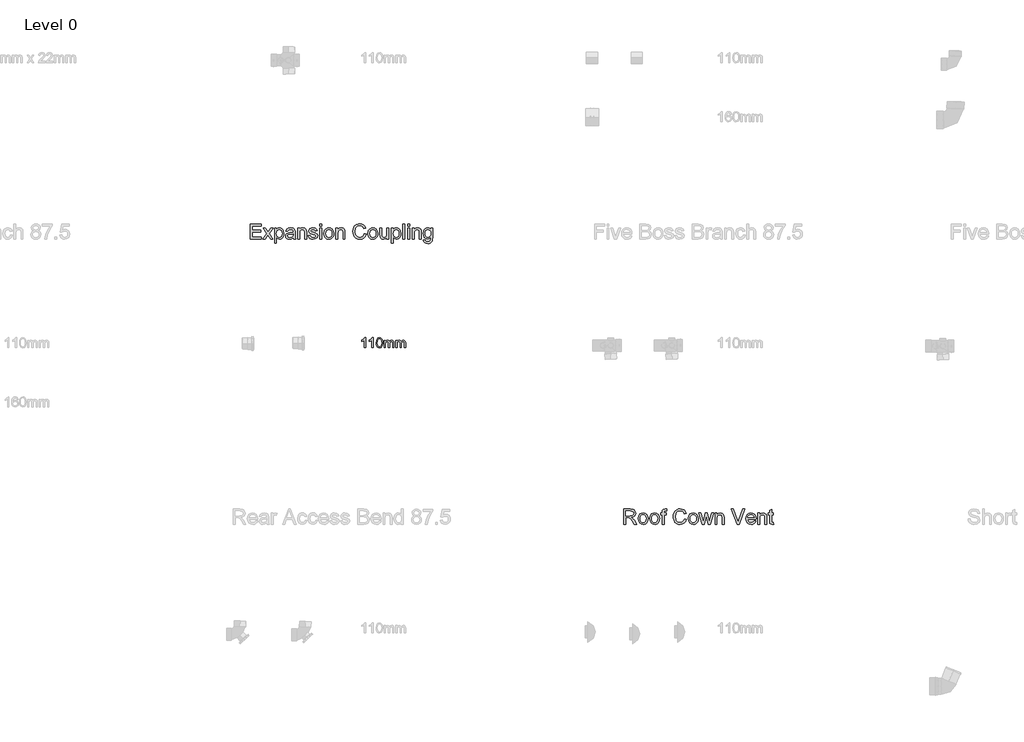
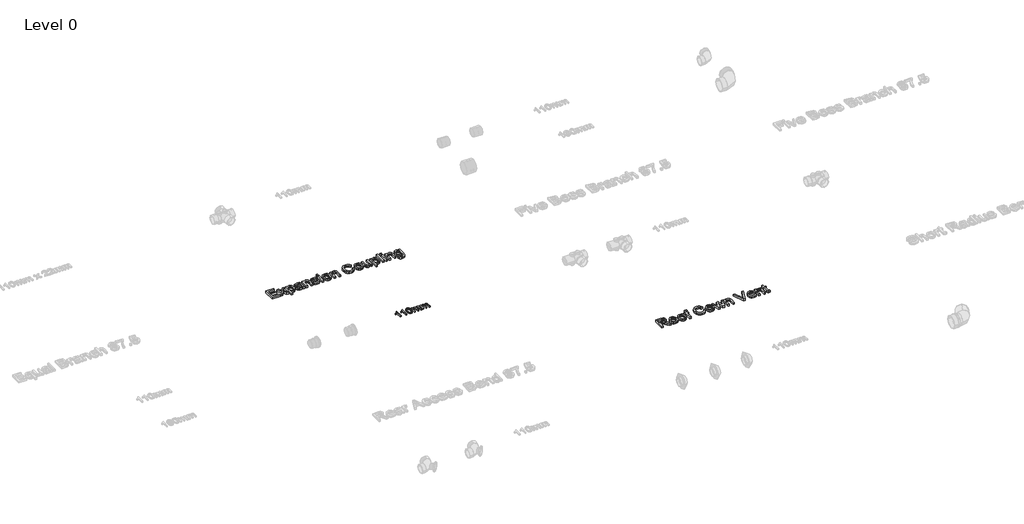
# One storey, part 21 of 28: 3 proxies.
"""IFC4 building model written with IfcOpenShell, lengths in millimetres."""

from ifc_helpers import new_model, si_unit, origin, origin_with_axes, place, context, project, spatial, polyline, outline, extrude, element, save

model = new_model("IFC4")

# Units and contexts
model_context = context("Model", 3, world=origin())
ifc_project = project(units=[si_unit("LENGTHUNIT", "METRE", prefix="MILLI")], contexts=[model_context])

# Site, building, storey
site = spatial("IfcSite", under=ifc_project)
building = spatial("IfcBuilding", under=site)
storey = spatial("IfcBuildingStorey", under=building, Name="Level 0", Elevation=0.0)

# Proxies
placement = place(None, origin())
element("IfcBuildingElementProxy", 1, Name="100mm Arial", ObjectType="100mm Arial", at=placement, inside=storey, context=model_context, shape_type="SweptSolid", body=[
    extrude(outline(polyline([(-3291.7293188, 2637.7167304), (-3304.0370111, 2637.7167304), (-3304.0370111, 2714.4474996), (-3315.6956649, 2706.1422111), (-3328.6523957, 2699.9282688), (-3328.6523957, 2711.5628842), (-3310.6115303, 2723.0773073), (-3299.6620111, 2736.1782688), (-3291.7293188, 2736.1782688), (-3291.7293188, 2637.7167304)])), origin_with_axes(), (0.0, 0.0, 1.0), 15.0),
    extrude(outline(polyline([(-3216.3447034, 2637.7167304), (-3228.6523957, 2637.7167304), (-3228.6523957, 2714.4474996), (-3240.3110495, 2706.1422111), (-3253.2677803, 2699.9282688), (-3253.2677803, 2711.5628842), (-3235.2269149, 2723.0773073), (-3224.2773957, 2736.1782688), (-3216.3447034, 2736.1782688), (-3216.3447034, 2637.7167304)])), origin_with_axes(), (0.0, 0.0, 1.0), 15.0),
    extrude(outline(polyline([(-3187.1139341, 2686.1542304), (-3183.4961457, 2714.4835573), (-3172.7509534, 2730.8176919), (-3154.8062418, 2736.1782688), (-3140.4312418, 2733.0051919), (-3130.5033572, 2723.8585573), (-3124.7341264, 2709.2912496), (-3122.4985495, 2686.1542304), (-3126.0802803, 2657.9450958), (-3136.7894149, 2641.5749035), (-3154.8062418, 2636.1782688), (-3167.5947034, 2638.5220188), (-3177.3062418, 2645.5532688), (-3184.6620111, 2662.2059131), (-3187.1139341, 2686.1542304)]), holes=[polyline([(-3174.8062418, 2686.1782688), (-3173.3639341, 2666.8182929), (-3169.0370111, 2655.613365), (-3162.5947034, 2650.2678121), (-3154.8062418, 2648.4859611), (-3147.0177803, 2650.2738217), (-3140.5754726, 2655.6374035), (-3136.2485495, 2666.848341), (-3134.8062418, 2686.1782688), (-3136.2004726, 2705.1025477), (-3140.3831649, 2716.394615), (-3146.8134534, 2722.0015861), (-3154.9504726, 2723.8705765), (-3162.6547995, 2722.2239419), (-3168.8447034, 2717.2840381), (-3173.3158572, 2705.2888458), (-3174.8062418, 2686.1782688)])]), origin_with_axes(), (0.0, 0.0, 1.0), 15.0),
    extrude(outline(polyline([(-3108.6523957, 2637.7167304), (-3108.6523957, 2710.0244227), (-3096.3447034, 2710.0244227), (-3096.3447034, 2698.1253842), (-3087.8831649, 2707.8729804), (-3075.8398957, 2711.5628842), (-3063.5081649, 2707.800865), (-3056.7293188, 2697.2599996), (-3047.1259534, 2707.9871631), (-3034.9985495, 2711.5628842), (-3025.7467466, 2710.0755044), (-3018.9047995, 2705.613365), (-3014.6770351, 2698.0562736), (-3013.2677803, 2687.2840381), (-3013.2677803, 2637.7167304), (-3025.5754726, 2637.7167304), (-3025.5754726, 2681.9955765), (-3026.7172995, 2692.2720188), (-3030.8519149, 2697.332115), (-3037.8831649, 2699.2551919), (-3049.9865303, 2694.3273073), (-3054.8062418, 2678.5340381), (-3054.8062418, 2637.7167304), (-3067.1139341, 2637.7167304), (-3067.1139341, 2683.3657688), (-3069.9624918, 2695.2888458), (-3079.3014341, 2699.2551919), (-3088.4120111, 2696.6109611), (-3094.4697034, 2688.8705765), (-3096.3447034, 2674.1830765), (-3096.3447034, 2637.7167304), (-3108.6523957, 2637.7167304)])), origin_with_axes(), (0.0, 0.0, 1.0), 15.0),
    extrude(outline(polyline([(-2994.8062418, 2637.7167304), (-2994.8062418, 2710.0244227), (-2982.4985495, 2710.0244227), (-2982.4985495, 2698.1253842), (-2974.0370111, 2707.8729804), (-2961.9937418, 2711.5628842), (-2949.6620111, 2707.800865), (-2942.8831649, 2697.2599996), (-2933.2797995, 2707.9871631), (-2921.1523957, 2711.5628842), (-2911.9005928, 2710.0755044), (-2905.0586457, 2705.613365), (-2900.8308813, 2698.0562736), (-2899.4216264, 2687.2840381), (-2899.4216264, 2637.7167304), (-2911.7293188, 2637.7167304), (-2911.7293188, 2681.9955765), (-2912.8711457, 2692.2720188), (-2917.0057611, 2697.332115), (-2924.0370111, 2699.2551919), (-2936.1403764, 2694.3273073), (-2940.960088, 2678.5340381), (-2940.960088, 2637.7167304), (-2953.2677803, 2637.7167304), (-2953.2677803, 2683.3657688), (-2956.116338, 2695.2888458), (-2965.4552803, 2699.2551919), (-2974.5658572, 2696.6109611), (-2980.6235495, 2688.8705765), (-2982.4985495, 2674.1830765), (-2982.4985495, 2637.7167304), (-2994.8062418, 2637.7167304)])), origin_with_axes(), (0.0, 0.0, 1.0), 15.0),
])
element("IfcBuildingElementProxy", 2, Name="150mm Arial", ObjectType="150mm Arial", at=placement, inside=storey, context=model_context, shape_type="SweptSolid", body=[
    extrude(outline(polyline([(-4422.1433743, 3705.2145219), (-4422.1433743, 3852.9068296), (-4315.9895281, 3852.9068296), (-4315.9895281, 3834.4452911), (-4403.6818358, 3834.4452911), (-4403.6818358, 3790.5991373), (-4320.6049127, 3790.5991373), (-4320.6049127, 3772.1375988), (-4403.6818358, 3772.1375988), (-4403.6818358, 3723.6760604), (-4313.6818358, 3723.6760604), (-4313.6818358, 3705.2145219), (-4422.1433743, 3705.2145219)])), origin_with_axes(), (0.0, 0.0, 1.0), 25.0),
    extrude(outline(polyline([(-4299.835682, 3705.2145219), (-4260.3885666, 3759.7337527), (-4297.5279897, 3813.6760604), (-4275.3164512, 3813.6760604), (-4257.3957781, 3787.7145219), (-4249.0303935, 3775.4549065), (-4241.7827973, 3785.478945), (-4221.3741435, 3813.6760604), (-4199.162605, 3813.6760604), (-4238.1770281, 3759.7337527), (-4200.6049127, 3705.2145219), (-4222.8164512, 3705.2145219), (-4245.4246243, 3737.9909642), (-4249.5712589, 3743.9765411), (-4277.6241435, 3705.2145219), (-4299.835682, 3705.2145219)])), origin_with_axes(), (0.0, 0.0, 1.0), 25.0),
    extrude(outline(polyline([(-4184.4510666, 3663.6760604), (-4184.4510666, 3813.6760604), (-4165.9895281, 3813.6760604), (-4165.9895281, 3795.5750988), (-4153.225105, 3810.8815892), (-4135.9895281, 3815.9837527), (-4123.5045522, 3814.1988969), (-4112.5880858, 3808.8443296), (-4103.6998647, 3800.24457), (-4097.2996243, 3788.7241373), (-4092.1433743, 3760.2746181), (-4093.5992036, 3744.4858561), (-4097.9666916, 3730.3647623), (-4105.1061147, 3718.6279835), (-4114.8777493, 3709.9921661), (-4126.2584584, 3704.6781637), (-4138.225105, 3702.9068296), (-4154.288807, 3707.6484161), (-4165.9895281, 3719.6375988), (-4165.9895281, 3663.6760604), (-4184.4510666, 3663.6760604)]), holes=[polyline([(-4165.9895281, 3758.5799065), (-4163.9928334, 3742.0294258), (-4158.0027493, 3730.4549065), (-4149.1641074, 3723.6400027), (-4138.6217397, 3721.3683681), (-4127.9080978, 3723.7211325), (-4118.8440954, 3730.7794258), (-4112.6647084, 3742.7776229), (-4110.6049127, 3759.9500988), (-4112.6151291, 3776.4104354), (-4118.6457781, 3788.1472142), (-4127.4708983, 3795.1784642), (-4137.8645281, 3797.5222142), (-4148.2987228, 3795.0297262), (-4157.4618839, 3787.5522623), (-4163.8576171, 3775.3241974), (-4165.9895281, 3758.5799065)])]), origin_with_axes(), (0.0, 0.0, 1.0), 25.0),
    extrude(outline(polyline([(-4002.1433743, 3719.0606758), (-4020.0460185, 3706.5486565), (-4039.8236627, 3702.9068296), (-4055.2518478, 3705.0973344), (-4066.632557, 3711.6688488), (-4073.6502853, 3721.6478152), (-4075.9895281, 3734.0606758), (-4072.4558743, 3748.6640411), (-4063.1710185, 3759.2650027), (-4050.2443358, 3765.322695), (-4034.2707781, 3768.0991373), (-4002.2515473, 3774.4452911), (-4002.1433743, 3778.5558681), (-4003.4144079, 3786.7950508), (-4007.2275089, 3792.1856758), (-4015.7551531, 3796.1880796), (-4027.6361627, 3797.5222142), (-4046.3140473, 3793.9705315), (-4055.2202973, 3781.3683681), (-4073.6818358, 3783.6760604), (-4065.695057, 3801.7049065), (-4049.6133262, 3812.2698104), (-4025.256355, 3815.9837527), (-4002.882557, 3812.7025027), (-3990.2443358, 3804.46332), (-3984.5832781, 3791.9332719), (-3983.6818358, 3775.7794258), (-3983.6818358, 3752.8106758), (-3982.7443358, 3720.7373585), (-3979.0664512, 3705.2145219), (-3997.5279897, 3705.2145219), (-4002.1433743, 3719.0606758)]), holes=[polyline([(-4002.1433743, 3755.9837527), (-4031.9270281, 3750.322695), (-4047.8104416, 3747.3299065), (-4055.0039512, 3742.4621181), (-4057.5279897, 3735.3587527), (-4052.0291916, 3725.3707719), (-4035.8933743, 3721.3683681), (-4017.2154897, 3725.7854354), (-4005.1722204, 3736.4765411), (-4002.2515473, 3750.7553873), (-4002.1433743, 3755.9837527)])]), origin_with_axes(), (0.0, 0.0, 1.0), 25.0),
    extrude(outline(polyline([(-3958.2972204, 3705.2145219), (-3958.2972204, 3813.6760604), (-3939.835682, 3813.6760604), (-3939.835682, 3798.5318296), (-3925.7190954, 3811.6207719), (-3906.4462589, 3815.9837527), (-3889.0123647, 3812.4681277), (-3877.1133262, 3803.2373585), (-3871.5784704, 3789.6616373), (-3870.6049127, 3771.8130796), (-3870.6049127, 3705.2145219), (-3889.0664512, 3705.2145219), (-3889.0664512, 3769.3250988), (-3891.193855, 3785.6592335), (-3898.7118839, 3794.2950508), (-3911.3861627, 3797.5222142), (-3922.1989632, 3795.7103152), (-3931.4162108, 3790.2746181), (-3937.7308142, 3779.7728152), (-3939.835682, 3762.7625988), (-3939.835682, 3705.2145219), (-3958.2972204, 3705.2145219)])), origin_with_axes(), (0.0, 0.0, 1.0), 25.0),
    extrude(outline(polyline([(-3852.1433743, 3737.5222142), (-3833.6818358, 3739.8299065), (-3830.7701772, 3731.9332719), (-3825.1361627, 3726.1279835), (-3805.5568358, 3721.3683681), (-3786.7347204, 3725.7313488), (-3780.6049127, 3735.9717335), (-3786.7707781, 3744.2650027), (-3805.773182, 3749.5294258), (-3833.5736627, 3758.5618777), (-3845.7070762, 3769.1087527), (-3849.835682, 3784.0005796), (-3846.5183743, 3797.7565892), (-3837.4678935, 3808.2674065), (-3825.7311147, 3813.7301469), (-3809.8477012, 3815.9837527), (-3787.3837589, 3812.3599546), (-3773.1049127, 3802.5522623), (-3766.7587589, 3785.9837527), (-3785.2202973, 3783.6760604), (-3792.1614031, 3793.8623585), (-3808.4053935, 3797.5222142), (-3826.0736627, 3794.0246181), (-3831.3741435, 3785.8755796), (-3829.1746243, 3780.5029835), (-3822.287605, 3776.4284642), (-3806.3861627, 3772.4981758), (-3779.288807, 3763.8082719), (-3766.7046723, 3753.9645219), (-3762.1433743, 3737.9188488), (-3767.4979416, 3720.2505796), (-3782.9486627, 3707.43207), (-3805.8092397, 3702.9068296), (-3824.4240233, 3705.08832), (-3838.0087589, 3711.6327911), (-3847.0772685, 3722.4681277), (-3852.1433743, 3737.5222142)])), origin_with_axes(), (0.0, 0.0, 1.0), 25.0),
    extrude(outline(polyline([(-3741.3741435, 3834.4452911), (-3741.3741435, 3852.9068296), (-3722.912605, 3852.9068296), (-3722.912605, 3834.4452911), (-3741.3741435, 3834.4452911)])), origin_with_axes(), (0.0, 0.0, 1.0), 25.0),
    extrude(outline(polyline([(-3741.3741435, 3705.2145219), (-3741.3741435, 3813.6760604), (-3722.912605, 3813.6760604), (-3722.912605, 3705.2145219), (-3741.3741435, 3705.2145219)])), origin_with_axes(), (0.0, 0.0, 1.0), 25.0),
    extrude(outline(polyline([(-3699.835682, 3759.4452911), (-3695.8422925, 3785.5961325), (-3683.8621243, 3803.9765411), (-3669.0604416, 3812.9819498), (-3651.3380858, 3815.9837527), (-3631.9435546, 3812.3284041), (-3616.4522685, 3801.3623585), (-3606.2975209, 3783.9510003), (-3602.912605, 3760.9597142), (-3604.4089993, 3742.3088729), (-3608.898182, 3728.1111565), (-3616.249444, 3717.4786445), (-3626.3320762, 3709.5234161), (-3638.3077372, 3704.5609762), (-3651.3380858, 3702.9068296), (-3670.9669921, 3706.5486565), (-3686.4402493, 3717.4741373), (-3696.4868238, 3735.2505796), (-3699.835682, 3759.4452911)]), holes=[polyline([(-3681.3741435, 3759.4813488), (-3679.2377252, 3742.7731157), (-3672.8284704, 3730.86957), (-3663.1830377, 3723.7436686), (-3651.3380858, 3721.3683681), (-3639.5472204, 3723.7571902), (-3629.9198166, 3730.9236565), (-3623.5105618, 3742.9849546), (-3621.3741435, 3760.0582719), (-3623.5240834, 3776.2797262), (-3629.9739031, 3788.0210123), (-3639.6148286, 3795.1469137), (-3651.3380858, 3797.5222142), (-3663.1830377, 3795.1559282), (-3672.8284704, 3788.05707), (-3679.2377252, 3776.1805676), (-3681.3741435, 3759.4813488)])]), origin_with_axes(), (0.0, 0.0, 1.0), 25.0),
    extrude(outline(polyline([(-3582.1433743, 3705.2145219), (-3582.1433743, 3813.6760604), (-3563.6818358, 3813.6760604), (-3563.6818358, 3798.5318296), (-3549.5652493, 3811.6207719), (-3530.2924127, 3815.9837527), (-3512.8585185, 3812.4681277), (-3500.95948, 3803.2373585), (-3495.4246243, 3789.6616373), (-3494.4510666, 3771.8130796), (-3494.4510666, 3705.2145219), (-3512.912605, 3705.2145219), (-3512.912605, 3769.3250988), (-3515.0400089, 3785.6592335), (-3522.5580377, 3794.2950508), (-3535.2323166, 3797.5222142), (-3546.0451171, 3795.7103152), (-3555.2623647, 3790.2746181), (-3561.576968, 3779.7728152), (-3563.6818358, 3762.7625988), (-3563.6818358, 3705.2145219), (-3582.1433743, 3705.2145219)])), origin_with_axes(), (0.0, 0.0, 1.0), 25.0),
    extrude(outline(polyline([(-3305.2202973, 3757.7145219), (-3286.7587589, 3752.9549065), (-3295.2773887, 3731.4419859), (-3308.6457781, 3715.7253392), (-3326.2058743, 3706.111457), (-3347.2996243, 3702.9068296), (-3368.7133863, 3705.3317094), (-3385.7190954, 3712.6063488), (-3398.7539512, 3724.478344), (-3408.2551531, 3740.6952911), (-3414.0559344, 3759.760796), (-3415.9895281, 3780.1784642), (-3413.8035305, 3801.713921), (-3407.2455377, 3820.3106758), (-3396.6580978, 3835.3782839), (-3382.3837589, 3846.3263008), (-3365.4546723, 3852.9924666), (-3346.9029897, 3855.2145219), (-3326.6611026, 3852.338921), (-3309.9258262, 3843.7121181), (-3297.2199969, 3829.8659642), (-3289.0664512, 3811.3323104), (-3307.5279897, 3806.9332719), (-3313.92823, 3820.3963128), (-3322.6722204, 3829.6315892), (-3333.8681339, 3834.9726349), (-3347.6241435, 3836.7529835), (-3363.4805137, 3834.7788248), (-3376.506355, 3828.8563488), (-3386.3906699, 3819.6075508), (-3392.8224608, 3807.6544258), (-3397.5279897, 3780.2145219), (-3391.9570762, 3748.4116373), (-3384.835682, 3736.5351349), (-3374.6133262, 3728.0931277), (-3362.358218, 3723.049558), (-3349.1385666, 3721.3683681), (-3333.7284103, 3723.6580315), (-3320.8873647, 3730.5270219), (-3311.1923526, 3741.9032238), (-3305.2202973, 3757.7145219)])), origin_with_axes(), (0.0, 0.0, 1.0), 25.0),
    extrude(outline(polyline([(-3268.2972204, 3759.4452911), (-3264.303831, 3785.5961325), (-3252.3236627, 3803.9765411), (-3237.52198, 3812.9819498), (-3219.7996243, 3815.9837527), (-3200.405093, 3812.3284041), (-3184.913807, 3801.3623585), (-3174.7590594, 3783.9510003), (-3171.3741435, 3760.9597142), (-3172.8705377, 3742.3088729), (-3177.3597204, 3728.1111565), (-3184.7109824, 3717.4786445), (-3194.7936147, 3709.5234161), (-3206.7692757, 3704.5609762), (-3219.7996243, 3702.9068296), (-3239.4285305, 3706.5486565), (-3254.9017877, 3717.4741373), (-3264.9483622, 3735.2505796), (-3268.2972204, 3759.4452911)]), holes=[polyline([(-3249.835682, 3759.4813488), (-3247.6992637, 3742.7731157), (-3241.2900089, 3730.86957), (-3231.6445762, 3723.7436686), (-3219.7996243, 3721.3683681), (-3208.0087589, 3723.7571902), (-3198.381355, 3730.9236565), (-3191.9721002, 3742.9849546), (-3189.835682, 3760.0582719), (-3191.9856219, 3776.2797262), (-3198.4354416, 3788.0210123), (-3208.0763671, 3795.1469137), (-3219.7996243, 3797.5222142), (-3231.6445762, 3795.1559282), (-3241.2900089, 3788.05707), (-3247.6992637, 3776.1805676), (-3249.835682, 3759.4813488)])]), origin_with_axes(), (0.0, 0.0, 1.0), 25.0),
    extrude(outline(polyline([(-3081.3741435, 3705.2145219), (-3081.3741435, 3723.8563488), (-3095.8332781, 3708.1442094), (-3114.6914512, 3702.9068296), (-3132.05323, 3706.5847142), (-3144.0243839, 3715.8154835), (-3149.523182, 3729.4092335), (-3150.6049127, 3746.572695), (-3150.6049127, 3813.6760604), (-3132.1433743, 3813.6760604), (-3132.1433743, 3755.2625988), (-3131.0255858, 3736.4404835), (-3123.7239031, 3725.3888008), (-3109.9678935, 3721.3683681), (-3094.55323, 3725.478945), (-3084.366932, 3736.6748585), (-3081.3741435, 3757.2457719), (-3081.3741435, 3813.6760604), (-3062.912605, 3813.6760604), (-3062.912605, 3705.2145219), (-3081.3741435, 3705.2145219)])), origin_with_axes(), (0.0, 0.0, 1.0), 25.0),
    extrude(outline(polyline([(-3037.5279897, 3663.6760604), (-3037.5279897, 3813.6760604), (-3019.0664512, 3813.6760604), (-3019.0664512, 3795.5750988), (-3006.3020281, 3810.8815892), (-2989.0664512, 3815.9837527), (-2976.5814752, 3814.1988969), (-2965.6650089, 3808.8443296), (-2956.7767877, 3800.24457), (-2950.3765473, 3788.7241373), (-2945.2202973, 3760.2746181), (-2946.6761267, 3744.4858561), (-2951.0436147, 3730.3647623), (-2958.1830377, 3718.6279835), (-2967.9546723, 3709.9921661), (-2979.3353815, 3704.6781637), (-2991.3020281, 3702.9068296), (-3007.36573, 3707.6484161), (-3019.0664512, 3719.6375988), (-3019.0664512, 3663.6760604), (-3037.5279897, 3663.6760604)]), holes=[polyline([(-3019.0664512, 3758.5799065), (-3017.0697565, 3742.0294258), (-3011.0796723, 3730.4549065), (-3002.2410305, 3723.6400027), (-2991.6986627, 3721.3683681), (-2980.9850209, 3723.7211325), (-2971.9210185, 3730.7794258), (-2965.7416315, 3742.7776229), (-2963.6818358, 3759.9500988), (-2965.6920522, 3776.4104354), (-2971.7227012, 3788.1472142), (-2980.5478214, 3795.1784642), (-2990.9414512, 3797.5222142), (-3001.3756459, 3795.0297262), (-3010.538807, 3787.5522623), (-3016.9345401, 3775.3241974), (-3019.0664512, 3758.5799065)])]), origin_with_axes(), (0.0, 0.0, 1.0), 25.0),
    extrude(outline(polyline([(-2924.4510666, 3705.2145219), (-2924.4510666, 3852.9068296), (-2905.9895281, 3852.9068296), (-2905.9895281, 3705.2145219), (-2924.4510666, 3705.2145219)])), origin_with_axes(), (0.0, 0.0, 1.0), 25.0),
    extrude(outline(polyline([(-2878.2972204, 3834.4452911), (-2878.2972204, 3852.9068296), (-2859.835682, 3852.9068296), (-2859.835682, 3834.4452911), (-2878.2972204, 3834.4452911)])), origin_with_axes(), (0.0, 0.0, 1.0), 25.0),
    extrude(outline(polyline([(-2878.2972204, 3705.2145219), (-2878.2972204, 3813.6760604), (-2859.835682, 3813.6760604), (-2859.835682, 3705.2145219), (-2878.2972204, 3705.2145219)])), origin_with_axes(), (0.0, 0.0, 1.0), 25.0),
    extrude(outline(polyline([(-2832.1433743, 3705.2145219), (-2832.1433743, 3813.6760604), (-2813.6818358, 3813.6760604), (-2813.6818358, 3798.5318296), (-2799.5652493, 3811.6207719), (-2780.2924127, 3815.9837527), (-2762.8585185, 3812.4681277), (-2750.95948, 3803.2373585), (-2745.4246243, 3789.6616373), (-2744.4510666, 3771.8130796), (-2744.4510666, 3705.2145219), (-2762.912605, 3705.2145219), (-2762.912605, 3769.3250988), (-2765.0400089, 3785.6592335), (-2772.5580377, 3794.2950508), (-2785.2323166, 3797.5222142), (-2796.0451171, 3795.7103152), (-2805.2623647, 3790.2746181), (-2811.576968, 3779.7728152), (-2813.6818358, 3762.7625988), (-2813.6818358, 3705.2145219), (-2832.1433743, 3705.2145219)])), origin_with_axes(), (0.0, 0.0, 1.0), 25.0),
    extrude(outline(polyline([(-2723.6818358, 3695.9837527), (-2705.2202973, 3693.6760604), (-2699.2347204, 3683.9404835), (-2681.3140473, 3679.8299065), (-2662.4198166, 3684.4813488), (-2653.4053935, 3697.5342335), (-2652.1433743, 3719.0606758), (-2665.1421723, 3708.6760604), (-2680.9895281, 3705.2145219), (-2700.0234824, 3709.243969), (-2714.2166916, 3721.3323104), (-2723.046319, 3739.0546661), (-2725.9895281, 3759.9861565), (-2720.7070762, 3788.5979354), (-2714.2437348, 3800.2130195), (-2705.4186147, 3808.8443296), (-2694.5336988, 3814.1988969), (-2681.8909704, 3815.9837527), (-2665.4216195, 3811.9452911), (-2652.1433743, 3799.8299065), (-2652.1433743, 3813.6760604), (-2633.6818358, 3813.6760604), (-2633.6818358, 3720.0342335), (-2634.943855, 3698.4131397), (-2638.7299127, 3684.1748585), (-2645.2518478, 3674.7322503), (-2654.7214993, 3667.4981758), (-2666.9315353, 3662.90082), (-2681.6746243, 3661.3683681), (-2698.8516074, 3663.5273224), (-2712.3777493, 3670.0041854), (-2721.0541315, 3680.8169859), (-2723.6818358, 3695.9837527)]), holes=[polyline([(-2707.5279897, 3761.2481758), (-2705.5583382, 3744.314582), (-2699.6493839, 3732.6724546), (-2690.7656699, 3725.9251589), (-2679.8717397, 3723.6760604), (-2669.0589392, 3725.9116373), (-2660.1301531, 3732.6183681), (-2654.140069, 3744.1117575), (-2652.1433743, 3760.7073104), (-2654.1986627, 3776.7124186), (-2660.3645281, 3788.2373585), (-2669.4240233, 3795.2010003), (-2680.1602012, 3797.5222142), (-2690.702569, 3795.237058), (-2699.5412108, 3788.3815892), (-2705.5312949, 3777.0279234), (-2707.5279897, 3761.2481758)])]), origin_with_axes(), (0.0, 0.0, 1.0), 25.0),
])
element("IfcBuildingElementProxy", 3, Name="150mm Arial", ObjectType="150mm Arial", at=placement, inside=storey, context=model_context, shape_type="SweptSolid", body=[
    extrude(outline(polyline([(-757.1433743, 905.2145219), (-757.1433743, 1052.9068296), (-693.5015473, 1052.9068296), (-663.9522685, 1048.9224546), (-654.8567156, 1043.4056277), (-647.7984223, 1034.8238969), (-643.2686747, 1024.1823705), (-641.7587589, 1012.4861565), (-644.2602613, 997.9368777), (-651.7647685, 985.8755796), (-664.4976411, 977.0324306), (-682.6842397, 972.1375988), (-672.1914512, 964.2409642), (-657.2275089, 945.2385604), (-632.600105, 905.2145219), (-654.054432, 905.2145219), (-673.273182, 935.8275027), (-687.1553935, 956.0919258), (-696.9089993, 965.6652431), (-705.6890473, 969.1808681), (-716.398182, 969.8299065), (-738.6818358, 969.8299065), (-738.6818358, 905.2145219), (-757.1433743, 905.2145219)]), holes=[polyline([(-738.6818358, 988.291445), (-697.3597204, 988.291445), (-676.2839993, 990.9056277), (-664.3128454, 999.2710123), (-660.2202973, 1011.8010604), (-662.1719199, 1020.806469), (-668.0267877, 1028.0630796), (-678.1004055, 1032.8497383), (-692.7082781, 1034.4452911), (-738.6818358, 1034.4452911), (-738.6818358, 988.291445)])]), origin_with_axes(), (0.0, 0.0, 1.0), 25.0),
    extrude(outline(polyline([(-616.3741435, 959.4452911), (-612.3807541, 985.5961325), (-600.4005858, 1003.9765411), (-585.5989031, 1012.9819498), (-567.8765473, 1015.9837527), (-548.4820161, 1012.3284041), (-532.99073, 1001.3623585), (-522.8359824, 983.9510003), (-519.4510666, 960.9597142), (-520.9474608, 942.3088729), (-525.4366435, 928.1111565), (-532.7879055, 917.4786445), (-542.8705377, 909.5234161), (-554.8461988, 904.5609762), (-567.8765473, 902.9068296), (-587.5054536, 906.5486565), (-602.9787108, 917.4741373), (-613.0252853, 935.2505796), (-616.3741435, 959.4452911)]), holes=[polyline([(-597.912605, 959.4813488), (-595.7761868, 942.7731157), (-589.366932, 930.86957), (-579.7214993, 923.7436686), (-567.8765473, 921.3683681), (-556.085682, 923.7571902), (-546.4582781, 930.9236565), (-540.0490233, 942.9849546), (-537.912605, 960.0582719), (-540.0625449, 976.2797262), (-546.5123647, 988.0210123), (-556.1532901, 995.1469137), (-567.8765473, 997.5222142), (-579.7214993, 995.1559282), (-589.366932, 988.05707), (-595.7761868, 976.1805676), (-597.912605, 959.4813488)])]), origin_with_axes(), (0.0, 0.0, 1.0), 25.0),
    extrude(outline(polyline([(-503.2972204, 959.4452911), (-499.303831, 985.5961325), (-487.3236627, 1003.9765411), (-472.52198, 1012.9819498), (-454.7996243, 1015.9837527), (-435.405093, 1012.3284041), (-419.913807, 1001.3623585), (-409.7590594, 983.9510003), (-406.3741435, 960.9597142), (-407.8705377, 942.3088729), (-412.3597204, 928.1111565), (-419.7109824, 917.4786445), (-429.7936147, 909.5234161), (-441.7692757, 904.5609762), (-454.7996243, 902.9068296), (-474.4285305, 906.5486565), (-489.9017877, 917.4741373), (-499.9483622, 935.2505796), (-503.2972204, 959.4452911)]), holes=[polyline([(-484.835682, 959.4813488), (-482.6992637, 942.7731157), (-476.2900089, 930.86957), (-466.6445762, 923.7436686), (-454.7996243, 921.3683681), (-443.0087589, 923.7571902), (-433.381355, 930.9236565), (-426.9721002, 942.9849546), (-424.835682, 960.0582719), (-426.9856219, 976.2797262), (-433.4354416, 988.0210123), (-443.0763671, 995.1469137), (-454.7996243, 997.5222142), (-466.6445762, 995.1559282), (-476.2900089, 988.05707), (-482.6992637, 976.1805676), (-484.835682, 959.4813488)])]), origin_with_axes(), (0.0, 0.0, 1.0), 25.0),
    extrude(outline(polyline([(-380.9895281, 905.2145219), (-380.9895281, 995.2145219), (-397.1433743, 995.2145219), (-397.1433743, 1013.6760604), (-380.9895281, 1013.6760604), (-380.9895281, 1024.6015411), (-379.0424127, 1039.9981758), (-369.5952973, 1050.9957719), (-350.9895281, 1055.2145219), (-334.1505858, 1053.1952911), (-336.8549127, 1035.8875988), (-347.491932, 1036.7529835), (-359.1205377, 1033.6880796), (-362.5279897, 1022.2577911), (-362.5279897, 1013.6760604), (-341.7587589, 1013.6760604), (-341.7587589, 995.2145219), (-362.5279897, 995.2145219), (-362.5279897, 905.2145219), (-380.9895281, 905.2145219)])), origin_with_axes(), (0.0, 0.0, 1.0), 25.0),
    extrude(outline(polyline([(-161.7587589, 957.7145219), (-143.2972204, 952.9549065), (-151.8158502, 931.4419859), (-165.1842397, 915.7253392), (-182.7443358, 906.111457), (-203.8380858, 902.9068296), (-225.2518478, 905.3317094), (-242.257557, 912.6063488), (-255.2924127, 924.478344), (-264.7936147, 940.6952911), (-270.5943959, 959.760796), (-272.5279897, 980.1784642), (-270.3419921, 1001.713921), (-263.7839993, 1020.3106758), (-253.1965594, 1035.3782839), (-238.9222204, 1046.3263008), (-221.9931339, 1052.9924666), (-203.4414512, 1055.2145219), (-183.1995642, 1052.338921), (-166.4642877, 1043.7121181), (-153.7584584, 1029.8659642), (-145.6049127, 1011.3323104), (-164.0664512, 1006.9332719), (-170.4666916, 1020.3963128), (-179.210682, 1029.6315892), (-190.4065954, 1034.9726349), (-204.162605, 1036.7529835), (-220.0189752, 1034.7788248), (-233.0448166, 1028.8563488), (-242.9291315, 1019.6075508), (-249.3609223, 1007.6544258), (-254.0664512, 980.2145219), (-248.4955377, 948.4116373), (-241.3741435, 936.5351349), (-231.1517877, 928.0931277), (-218.8966796, 923.049558), (-205.6770281, 921.3683681), (-190.2668719, 923.6580315), (-177.4258262, 930.5270219), (-167.7308142, 941.9032238), (-161.7587589, 957.7145219)])), origin_with_axes(), (0.0, 0.0, 1.0), 25.0),
    extrude(outline(polyline([(-124.835682, 959.4452911), (-120.8422925, 985.5961325), (-108.8621243, 1003.9765411), (-94.0604416, 1012.9819498), (-76.3380858, 1015.9837527), (-56.9435546, 1012.3284041), (-41.4522685, 1001.3623585), (-31.2975209, 983.9510003), (-27.912605, 960.9597142), (-29.4089993, 942.3088729), (-33.898182, 928.1111565), (-41.249444, 917.4786445), (-51.3320762, 909.5234161), (-63.3077372, 904.5609762), (-76.3380858, 902.9068296), (-95.9669921, 906.5486565), (-111.4402493, 917.4741373), (-121.4868238, 935.2505796), (-124.835682, 959.4452911)]), holes=[polyline([(-106.3741435, 959.4813488), (-104.2377252, 942.7731157), (-97.8284704, 930.86957), (-88.1830377, 923.7436686), (-76.3380858, 921.3683681), (-64.5472204, 923.7571902), (-54.9198166, 930.9236565), (-48.5105618, 942.9849546), (-46.3741435, 960.0582719), (-48.5240834, 976.2797262), (-54.9739031, 988.0210123), (-64.6148286, 995.1469137), (-76.3380858, 997.5222142), (-88.1830377, 995.1559282), (-97.8284704, 988.05707), (-104.2377252, 976.1805676), (-106.3741435, 959.4813488)])]), origin_with_axes(), (0.0, 0.0, 1.0), 25.0),
    extrude(outline(polyline([(10.8494142, 905.2145219), (-22.1433743, 1013.6760604), (-2.960682, 1013.6760604), (15.7532603, 950.3948104), (21.3422027, 927.7866373), (25.9215296, 949.5654835), (40.8133565, 1013.6760604), (62.8085488, 1013.6760604), (77.6282603, 949.7457719), (81.7027796, 930.0222142), (87.5441257, 950.8275027), (106.2941257, 1013.6760604), (125.5489334, 1013.6760604), (92.3037411, 905.2145219), (69.9840296, 905.2145219), (55.8133565, 968.8202911), (51.7027796, 988.6520219), (33.4215296, 905.2145219), (10.8494142, 905.2145219)])), origin_with_axes(), (0.0, 0.0, 1.0), 25.0),
    extrude(outline(polyline([(138.2412411, 905.2145219), (138.2412411, 1013.6760604), (156.7027796, 1013.6760604), (156.7027796, 998.5318296), (170.8193661, 1011.6207719), (190.0922027, 1015.9837527), (207.5260969, 1012.4681277), (219.4251353, 1003.2373585), (224.9599911, 989.6616373), (225.9335488, 971.8130796), (225.9335488, 905.2145219), (207.4720103, 905.2145219), (207.4720103, 969.3250988), (205.3446065, 985.6592335), (197.8265777, 994.2950508), (185.1522988, 997.5222142), (174.3394983, 995.7103152), (165.1222507, 990.2746181), (158.8076474, 979.7728152), (156.7027796, 962.7625988), (156.7027796, 905.2145219), (138.2412411, 905.2145219)])), origin_with_axes(), (0.0, 0.0, 1.0), 25.0),
    extrude(outline(polyline([(354.9479719, 905.2145219), (296.1739334, 1052.9068296), (315.9335488, 1052.9068296), (355.2724911, 946.5005796), (363.2412411, 922.5222142), (371.101818, 946.5005796), (410.5489334, 1052.9068296), (430.3085488, 1052.9068296), (374.0224911, 905.2145219), (354.9479719, 905.2145219)])), origin_with_axes(), (0.0, 0.0, 1.0), 25.0),
    extrude(outline(polyline([(521.101818, 937.5222142), (539.2027796, 935.2145219), (532.6808445, 921.5756998), (522.273693, 911.3803873), (508.2157003, 905.025219), (490.7412411, 902.9068296), (469.0795825, 906.5621782), (452.4119142, 917.5282238), (441.7839094, 935.0928272), (438.2412411, 958.5438488), (441.8199671, 982.7836325), (452.556145, 1000.9116373), (468.9984527, 1012.2157238), (489.695568, 1015.9837527), (509.7481522, 1012.2247383), (525.7712892, 1000.947695), (536.2775993, 982.8557479), (539.7797027, 958.6520219), (539.6715296, 953.6760604), (456.7027796, 953.6760604), (459.8983926, 939.8569498), (467.32177, 929.697695), (478.0354118, 923.4506998), (491.101818, 921.3683681), (509.2027796, 925.2265411), (521.101818, 937.5222142)]), holes=[polyline([(456.7027796, 972.1375988), (521.3181642, 972.1375988), (518.821169, 981.8912046), (513.9263373, 988.8683681), (503.1631161, 995.3587527), (489.6234527, 997.5222142), (477.1790416, 995.7959522), (466.8890777, 990.6171661), (459.7361329, 982.5447503), (456.7027796, 972.1375988)])]), origin_with_axes(), (0.0, 0.0, 1.0), 25.0),
    extrude(outline(polyline([(558.2412411, 905.2145219), (558.2412411, 1013.6760604), (576.7027796, 1013.6760604), (576.7027796, 998.5318296), (590.8193661, 1011.6207719), (610.0922027, 1015.9837527), (627.5260969, 1012.4681277), (639.4251353, 1003.2373585), (644.9599911, 989.6616373), (645.9335488, 971.8130796), (645.9335488, 905.2145219), (627.4720103, 905.2145219), (627.4720103, 969.3250988), (625.3446065, 985.6592335), (617.8265777, 994.2950508), (605.1522988, 997.5222142), (594.3394983, 995.7103152), (585.1222507, 990.2746181), (578.8076474, 979.7728152), (576.7027796, 962.7625988), (576.7027796, 905.2145219), (558.2412411, 905.2145219)])), origin_with_axes(), (0.0, 0.0, 1.0), 25.0),
    extrude(outline(polyline([(710.5489334, 920.6111565), (712.8566257, 904.6736565), (699.0465296, 902.9068296), (683.5777796, 905.9717335), (675.8614334, 914.0125988), (673.6258565, 934.9621181), (673.6258565, 995.2145219), (659.7797027, 995.2145219), (659.7797027, 1013.6760604), (673.6258565, 1013.6760604), (673.6258565, 1040.0342335), (692.087395, 1050.8875988), (692.087395, 1013.6760604), (710.5489334, 1013.6760604), (710.5489334, 995.2145219), (692.087395, 995.2145219), (692.087395, 935.5029835), (693.0609527, 925.9837527), (696.2160007, 922.6123585), (702.508068, 921.3683681), (710.5489334, 920.6111565)])), origin_with_axes(), (0.0, 0.0, 1.0), 25.0),
])

save(model, "model.ifc")
